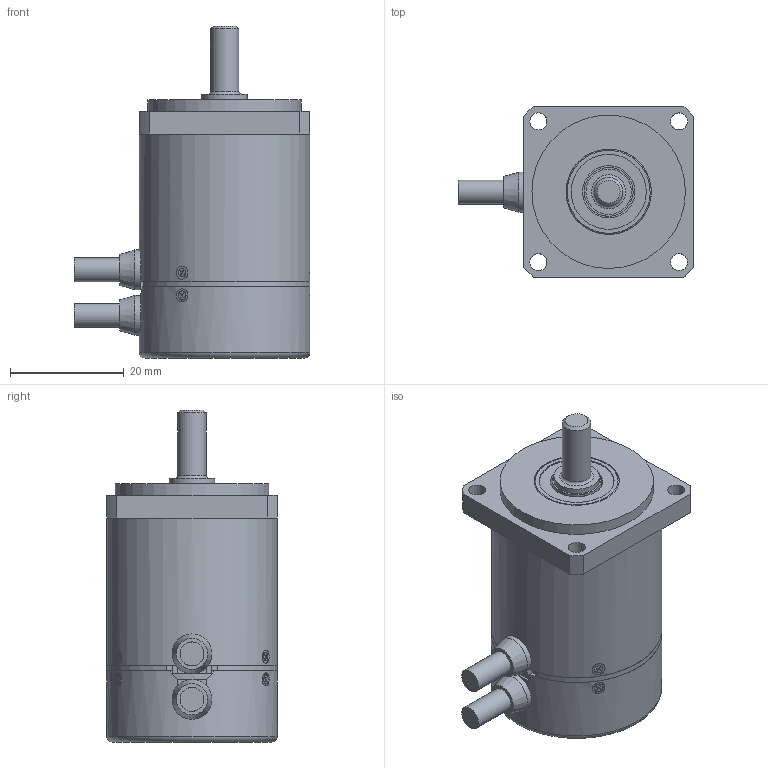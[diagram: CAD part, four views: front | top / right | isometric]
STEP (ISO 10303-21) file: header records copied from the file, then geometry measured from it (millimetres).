
FILE_DESCRIPTION(('STEP AP214'),'1');
FILE_NAME('MDS-3018.stp','2017-10-10T07:16:04',(' '),(' '),'Spatial InterOp 3D',' ',' ');
FILE_SCHEMA(('automotive_design'));
Length unit declared in the file: millimetre
Products named in the file (11): ケーブル; タッピングネジ M1.4x2.2; サラコネジ M1.4x2.5; ｱﾝｷﾞｭﾗﾍﾞｱﾘﾝｸﾞ MTA06-15; ブッシュ; カバー_S; ベース; シャフト_S3018; ケース_3018
Assembly tree (16 placements, depth 2):
  (unnamed)
    ケーブル  x2
    タッピングネジ M1.4x2.2  x3
    サラコネジ M1.4x2.5  x3
    ｱﾝｷﾞｭﾗﾍﾞｱﾘﾝｸﾞ MTA06-15
    ｱﾝｷﾞｭﾗﾍﾞｱﾘﾝｸﾞ MTA06-15
    ブッシュ  x2
    カバー_S
    ベース
    シャフト_S3018
    ケース_3018
Bounding box: 41.49 x 30 x 58.4 mm (x, y, z)
Volume: 12236.4 mm3; surface area: 18618.6 mm2
Topology: 18 solids, 18 shells, 397 faces, 916 edges, 589 vertices
Faces by surface type: plane 213, cylinder 125, cone 39, torus 17, bspline 3
Full cylindrical faces by diameter (mm): 1.1 x15, 1.4 x12, 1.5 x3, 1.6 x3, 2.3 x6, 3 x4, 4.2 x4, 5 x1, 5.4 x1, 6 x4, 7 x2, 8 x1, 8.6 x6, 9.2 x2, 10 x2, 11.8 x2, 12 x1, 12.6 x2, 13 x1, 13.2 x6, 15 x4, 16 x1, 27 x2, 28 x1, 28.2 x1, 28.9 x1, 29 x1, 30 x2
Entity records: 10134 total; most frequent: CARTESIAN_POINT 1957, DIRECTION 1244, ORIENTED_EDGE 1004, AXIS2_PLACEMENT_3D 505, EDGE_CURVE 502, EDGE_LOOP 423, VERTEX_POINT 378, FACE_OUTER_BOUND 344
